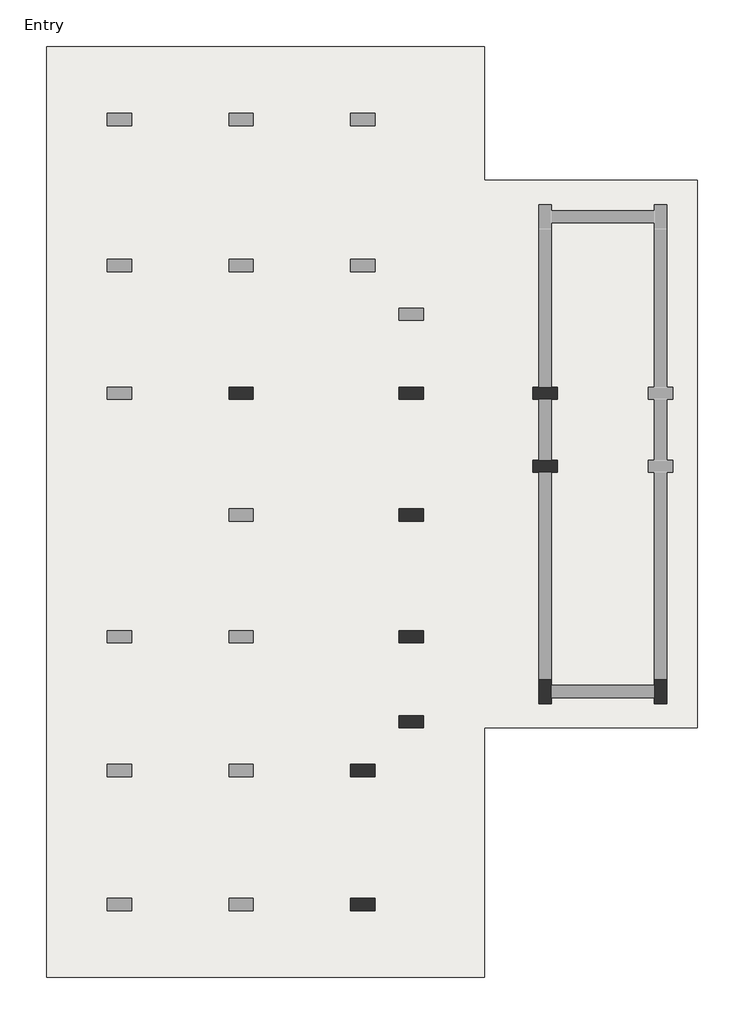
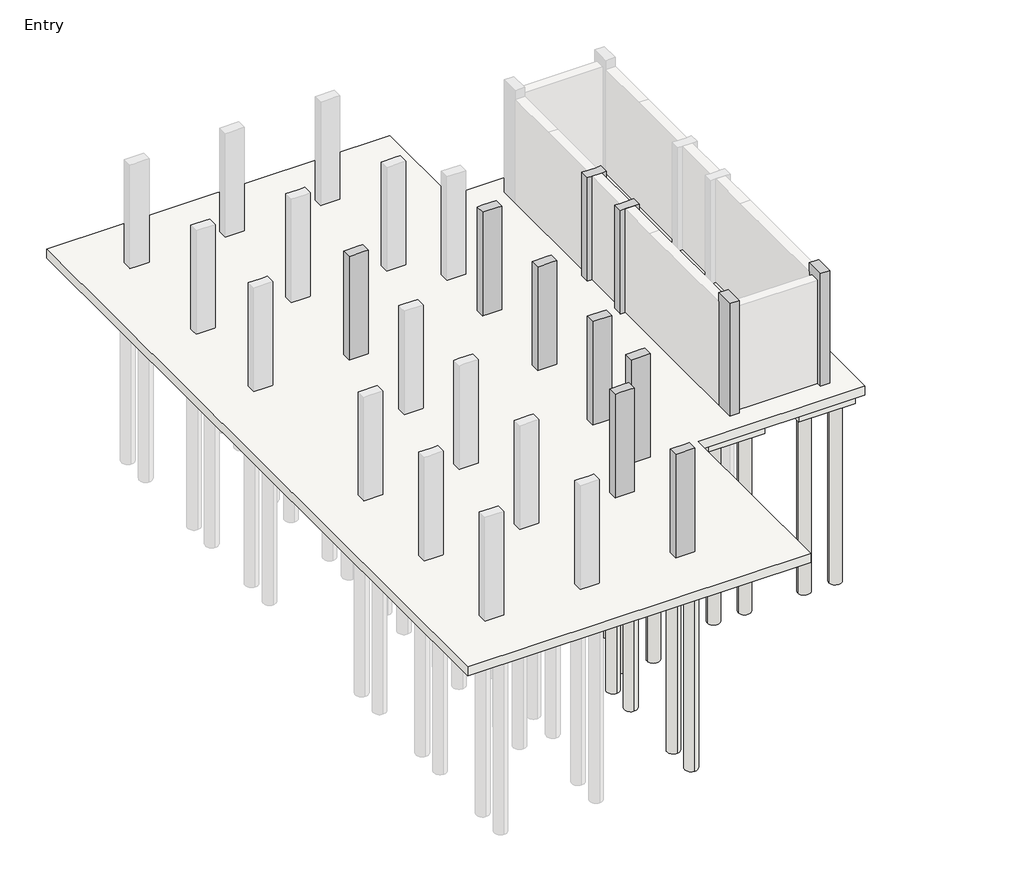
# One storey, part 2 of 3: 34 slabs, 11 columns.
"""IFC4 building model written with IfcOpenShell, lengths in millimetres."""

from ifc_helpers import new_model, si_unit, point, frame, frame_2d, origin, place, context, project, spatial, polyline, circle_curve, trimmed, segment, composite_curve, outline, extrude, faceted_brep, element, save

model = new_model("IFC4")

# Units and contexts
model_context = context("Model", 3, world=origin())
ifc_project = project(units=[si_unit("LENGTHUNIT", "METRE", prefix="MILLI")], contexts=[model_context])

# Site, building, storey
site = spatial("IfcSite", under=ifc_project)
building = spatial("IfcBuilding", under=site)
storey = spatial("IfcBuildingStorey", under=building, Name="Entry", Elevation=0.0)

# Columns
placement = place(None, origin())
element("IfcColumn", 1, ObjectType="Concrete-Rectangular-Column : 12 x 24", at=placement, inside=storey, context=model_context, shape_type="Brep", body=[
    faceted_brep([(-17912.8093661, 15543.5691779, 0.0), (-17303.2093661, 15543.5691779, 0.0), (-17303.2093661, 15238.7691779, 0.0), (-17912.8093661, 15238.7691779, 0.0), (-17912.8093661, 15543.5691779, 3505.2), (-17760.4093661, 15543.5691779, 3505.2), (-17455.6093661, 15543.5691779, 3505.2), (-17303.2093661, 15543.5691779, 3505.2), (-17303.2093661, 15543.5691779, 2895.6), (-17912.8093661, 15543.5691779, 2895.6), (-17303.2093661, 15238.7691779, 3505.2), (-17303.2093661, 15238.7691779, 2895.6), (-17455.6093661, 15238.7691779, 3505.2), (-17760.4093661, 15238.7691779, 3505.2), (-17912.8093661, 15238.7691779, 3505.2), (-17912.8093661, 15238.7691779, 2895.6)], [[[0, 1, 2, 3]], [[4, 5, 6, 7, 8, 1, 0, 9]], [[7, 10, 11, 2, 1, 8]], [[10, 12, 13, 14, 15, 3, 2, 11]], [[14, 4, 9, 0, 3, 15]], [[4, 14, 13, 12, 10, 7, 6, 5]]]),
])
element("IfcColumn", 2, ObjectType="Concrete-Rectangular-Column : 12 x 24", at=placement, inside=storey, context=model_context, shape_type="Brep", body=[
    faceted_brep([(-13645.6093661, 15543.5691779, 0.0), (-13036.0093661, 15543.5691779, 0.0), (-13036.0093661, 15238.7691779, 0.0), (-13645.6093661, 15238.7691779, 0.0), (-13645.6093661, 15543.5691779, 3505.2), (-13493.2093661, 15543.5691779, 3505.2), (-13188.4093661, 15543.5691779, 3505.2), (-13036.0093661, 15543.5691779, 3505.2), (-13036.0093661, 15543.5691779, 2895.6), (-13645.6093661, 15543.5691779, 2895.6), (-13036.0093661, 15238.7691779, 3505.2), (-13036.0093661, 15238.7691779, 2895.6), (-13188.4093661, 15238.7691779, 3505.2), (-13493.2093661, 15238.7691779, 3505.2), (-13645.6093661, 15238.7691779, 3505.2), (-13645.6093661, 15238.7691779, 2895.6)], [[[0, 1, 2, 3]], [[4, 5, 6, 7, 8, 1, 0, 9]], [[7, 10, 11, 2, 1, 8]], [[10, 12, 13, 14, 15, 3, 2, 11]], [[14, 4, 9, 0, 3, 15]], [[4, 14, 13, 12, 10, 7, 6, 5]]]),
])
element("IfcColumn", 3, ObjectType="Concrete-Rectangular-Column : 12 x 24", at=placement, inside=storey, context=model_context, shape_type="Brep", body=[
    faceted_brep([(-10292.8093661, 15543.5691779, 0.0), (-10140.4093661, 15543.5691779, 0.0), (-9835.6093661, 15543.5691779, 0.0), (-9683.2093661, 15543.5691779, 0.0), (-9683.2093661, 15238.7691779, 0.0), (-9835.6093661, 15238.7691779, 0.0), (-10140.4093661, 15238.7691779, 0.0), (-10292.8093661, 15238.7691779, 0.0), (-10292.8093661, 15543.5691779, 3505.2), (-10140.4093661, 15543.5691779, 3505.2), (-9835.6093661, 15543.5691779, 3505.2), (-9683.2093661, 15543.5691779, 3505.2), (-9683.2093661, 15238.7691779, 3505.2), (-9835.6093661, 15238.7691779, 3505.2), (-10140.4093661, 15238.7691779, 3505.2), (-10292.8093661, 15238.7691779, 3505.2)], [[[0, 1, 2, 3, 4, 5, 6, 7]], [[3, 2, 1, 0, 8, 9, 10, 11]], [[4, 3, 11, 12]], [[7, 6, 5, 4, 12, 13, 14, 15]], [[0, 7, 15, 8]], [[11, 10, 9, 8, 15, 14, 13, 12]]]),
])
element("IfcColumn", 4, ObjectType="Concrete-Rectangular-Column : 12 x 24", at=placement, inside=storey, context=model_context, shape_type="Brep", body=[
    faceted_brep([(-10292.8093661, 13714.7691779, 0.0), (-10140.4093661, 13714.7691779, 0.0), (-9835.6093661, 13714.7691779, 0.0), (-9683.2093661, 13714.7691779, 0.0), (-9683.2093661, 13409.9691779, 0.0), (-9835.6093661, 13409.9691779, 0.0), (-10140.4093661, 13409.9691779, 0.0), (-10292.8093661, 13409.9691779, 0.0), (-10292.8093661, 13714.7691779, 3505.2), (-10140.4093661, 13714.7691779, 3505.2), (-9835.6093661, 13714.7691779, 3505.2), (-9683.2093661, 13714.7691779, 3505.2), (-9683.2093661, 13409.9691779, 3505.2), (-9835.6093661, 13409.9691779, 3505.2), (-10140.4093661, 13409.9691779, 3505.2), (-10292.8093661, 13409.9691779, 3505.2)], [[[0, 1, 2, 3, 4, 5, 6, 7]], [[3, 2, 1, 0, 8, 9, 10, 11]], [[4, 3, 11, 12]], [[7, 6, 5, 4, 12, 13, 14, 15]], [[0, 7, 15, 8]], [[11, 10, 9, 8, 15, 14, 13, 12]]]),
])
element("IfcColumn", 5, ObjectType="Concrete-Rectangular-Column : 12 x 24", at=placement, inside=storey, context=model_context, shape_type="Brep", body=[
    faceted_brep([(-13645.6093661, 12495.5691779, 0.0), (-13036.0093661, 12495.5691779, 0.0), (-13036.0093661, 12190.7691779, 0.0), (-13645.6093661, 12190.7691779, 0.0), (-13645.6093661, 12495.5691779, 3505.2), (-13493.2093661, 12495.5691779, 3505.2), (-13188.4093661, 12495.5691779, 3505.2), (-13036.0093661, 12495.5691779, 3505.2), (-13645.6093661, 12495.5691779, 2895.6), (-13036.0093661, 12190.7691779, 3505.2), (-13188.4093661, 12190.7691779, 3505.2), (-13493.2093661, 12190.7691779, 3505.2), (-13645.6093661, 12190.7691779, 3505.2), (-13645.6093661, 12190.7691779, 2895.6)], [[[0, 1, 2, 3]], [[4, 5, 6, 7, 1, 0, 8]], [[7, 9, 2, 1]], [[9, 10, 11, 12, 13, 3, 2]], [[12, 4, 8, 0, 3, 13]], [[4, 12, 11, 10, 9, 7, 6, 5]]]),
])
element("IfcColumn", 6, ObjectType="Concrete-Rectangular-Column : 12 x 24", at=placement, inside=storey, context=model_context, shape_type="Brep", body=[
    faceted_brep([(-13645.6093661, 9447.5691779, 0.0), (-13036.0093661, 9447.5691779, 0.0), (-13036.0093661, 9142.7691779, 0.0), (-13645.6093661, 9142.7691779, 0.0), (-13645.6093661, 9447.5691779, 3505.2), (-13493.2093661, 9447.5691779, 3505.2), (-13188.4093661, 9447.5691779, 3505.2), (-13036.0093661, 9447.5691779, 3505.2), (-13645.6093661, 9447.5691779, 2895.6), (-13036.0093661, 9142.7691779, 3505.2), (-13188.4093661, 9142.7691779, 3505.2), (-13493.2093661, 9142.7691779, 3505.2), (-13645.6093661, 9142.7691779, 3505.2), (-13645.6093661, 9142.7691779, 2895.6)], [[[0, 1, 2, 3]], [[4, 5, 6, 7, 1, 0, 8]], [[7, 9, 2, 1]], [[9, 10, 11, 12, 13, 3, 2]], [[12, 4, 8, 0, 3, 13]], [[4, 12, 11, 10, 9, 7, 6, 5]]]),
])
element("IfcColumn", 7, ObjectType="Concrete-Rectangular-Column : 12 x 24", at=placement, inside=storey, context=model_context, shape_type="Brep", body=[
    faceted_brep([(-14864.8093661, 2741.9691779, 0.0), (-14255.2093661, 2741.9691779, 0.0), (-14255.2093661, 2437.1691779, 0.0), (-14864.8093661, 2437.1691779, 0.0), (-14864.8093661, 2741.9691779, 3505.2), (-14712.4093661, 2741.9691779, 3505.2), (-14407.6093661, 2741.9691779, 3505.2), (-14255.2093661, 2741.9691779, 3505.2), (-14864.8093661, 2741.9691779, 2895.6), (-14255.2093661, 2437.1691779, 3505.2), (-14864.8093661, 2437.1691779, 3505.2), (-14864.8093661, 2437.1691779, 2895.6)], [[[0, 1, 2, 3]], [[4, 5, 6, 7, 1, 0, 8]], [[7, 9, 2, 1]], [[9, 10, 11, 3, 2]], [[10, 4, 8, 0, 3, 11]], [[4, 10, 9, 7, 6, 5]]]),
])
element("IfcColumn", 8, ObjectType="Concrete-Rectangular-Column : 12 x 24", at=placement, inside=storey, context=model_context, shape_type="Brep", body=[
    faceted_brep([(-14864.8093661, 6094.7691779, 0.0), (-14255.2093661, 6094.7691779, 0.0), (-14255.2093661, 5789.9691779, 0.0), (-14864.8093661, 5789.9691779, 0.0), (-14864.8093661, 6094.7691779, 3505.2), (-14712.4093661, 6094.7691779, 3505.2), (-14407.6093661, 6094.7691779, 3505.2), (-14255.2093661, 6094.7691779, 3505.2), (-14864.8093661, 6094.7691779, 2895.6), (-14255.2093661, 5789.9691779, 3505.2), (-14407.6093661, 5789.9691779, 3505.2), (-14712.4093661, 5789.9691779, 3505.2), (-14864.8093661, 5789.9691779, 3505.2), (-14864.8093661, 5789.9691779, 2895.6)], [[[0, 1, 2, 3]], [[4, 5, 6, 7, 1, 0, 8]], [[7, 9, 2, 1]], [[9, 10, 11, 12, 13, 3, 2]], [[12, 4, 8, 0, 3, 13]], [[4, 12, 11, 10, 9, 7, 6, 5]]]),
])
element("IfcColumn", 9, ObjectType="Concrete-Rectangular-Column : 12 x 24", at=placement, inside=storey, context=model_context, shape_type="Brep", body=[
    faceted_brep([(-13645.6093661, 7313.9691779, 0.0), (-13036.0093661, 7313.9691779, 0.0), (-13036.0093661, 7009.1691779, 0.0), (-13645.6093661, 7009.1691779, 0.0), (-13645.6093661, 7313.9691779, 3505.2), (-13493.2093661, 7313.9691779, 3505.2), (-13188.4093661, 7313.9691779, 3505.2), (-13036.0093661, 7313.9691779, 3505.2), (-13645.6093661, 7313.9691779, 2895.6), (-13036.0093661, 7009.1691779, 3505.2), (-13645.6093661, 7009.1691779, 3505.2), (-13645.6093661, 7009.1691779, 2895.6)], [[[0, 1, 2, 3]], [[4, 5, 6, 7, 1, 0, 8]], [[7, 9, 2, 1]], [[9, 10, 11, 3, 2]], [[10, 4, 8, 0, 3, 11]], [[4, 10, 9, 7, 6, 5]]]),
])
element("IfcColumn", 10, ObjectType="Concrete-Rectangular-Column : 12 x 24", at=placement, inside=storey, context=model_context, shape_type="Brep", body=[
    faceted_brep([(-10140.4093661, 7618.7691779, 0.0), (-10140.4093661, 8228.3691779, 0.0), (-9835.6093661, 8228.3691779, 0.0), (-9835.6093661, 8075.9691779, 0.0), (-9835.6093661, 7771.1691779, 0.0), (-9835.6093661, 7618.7691779, 0.0), (-10140.4093661, 7618.7691779, 3810.0), (-10140.4093661, 8228.3691779, 3810.0), (-10140.4093661, 8228.3691779, 3505.2), (-9835.6093661, 8228.3691779, 3810.0), (-9835.6093661, 8228.3691779, 3505.2), (-9835.6093661, 7618.7691779, 3810.0)], [[[0, 1, 2, 3, 4, 5]], [[6, 7, 8, 1, 0]], [[7, 9, 10, 2, 1, 8]], [[9, 11, 5, 4, 3, 2, 10]], [[11, 6, 0, 5]], [[6, 11, 9, 7]]]),
])
element("IfcColumn", 11, ObjectType="Concrete-Rectangular-Column : 12 x 24", at=placement, inside=storey, context=model_context, shape_type="Brep", body=[
    faceted_brep([(-7244.8093661, 7618.7691779, 0.0), (-7244.8093661, 7771.1691779, 0.0), (-7244.8093661, 8075.9691779, 0.0), (-7244.8093661, 8228.3691779, 0.0), (-6940.0093661, 8228.3691779, 0.0), (-6940.0093661, 7618.7691779, 0.0), (-7244.8093661, 7618.7691779, 3810.0), (-7244.8093661, 8228.3691779, 3810.0), (-7244.8093661, 8228.3691779, 3505.2), (-6940.0093661, 8228.3691779, 3810.0), (-6940.0093661, 8228.3691779, 3505.2), (-6940.0093661, 7618.7691779, 3810.0)], [[[0, 1, 2, 3, 4, 5]], [[6, 7, 8, 3, 2, 1, 0]], [[7, 9, 10, 4, 3, 8]], [[9, 11, 5, 4, 10]], [[11, 6, 0, 5]], [[6, 11, 9, 7]]]),
])

# Slabs
element("IfcSlab", 12, ObjectType="12\" Foundation Slab", at=placement, inside=storey, context=model_context, shape_type="SweptSolid", body=[
    extrude(outline(polyline([(-11512.0093661, 24077.9691779), (-11512.0093661, 20725.1691779), (-6178.0093661, 20725.1691779), (-6178.0093661, 7009.1691779), (-11512.0093661, 7009.1691779), (-11512.0093661, 760.7691779), (-22484.8093661, 760.7691779), (-22484.8093661, 24077.9691779), (-11512.0093661, 24077.9691779)])), frame((0.0, 0.0, -304.8), z_axis=(0.0, 0.0, 1.0), x_axis=(1.0, 0.0, 0.0)), (0.0, 0.0, 1.0), 304.8),
])
element("IfcSlab", 13, ObjectType="Pile Cap-2 Pile : 31\"x61\"x35\"", at=placement, inside=storey, context=model_context, shape_type="SweptSolid", body=[
    extrude(outline(polyline([(-14966.4093661, 3491.2691779), (-14153.6093661, 3491.2691779), (-14153.6093661, 1687.8691779), (-14966.4093661, 1687.8691779), (-14966.4093661, 3491.2691779)])), frame((0.0, 0.0, -889.0), z_axis=(0.0, 0.0, 1.0), x_axis=(1.0, 0.0, 0.0)), (0.0, 0.0, 1.0), 584.2),
])
element("IfcSlab", 14, ObjectType="Pile Cap-2 Pile : 31\"x61\"x35\"", at=placement, inside=storey, context=model_context, shape_type="Brep", body=[
    faceted_brep([(-14966.4093661, 6844.0691779, -889.0), (-14242.5093661, 6844.0691779, -889.0), (-14153.6093661, 6844.0691779, -889.0), (-14153.6093661, 6755.1691779, -889.0), (-14153.6093661, 5040.6691779, -889.0), (-14966.4093661, 5040.6691779, -889.0), (-14966.4093661, 5040.6691779, -304.8), (-14966.4093661, 6844.0691779, -304.8), (-14153.6093661, 5040.6691779, -304.8), (-14153.6093661, 6844.0691779, -304.8), (-14153.6093661, 6755.1691779, -304.8), (-14242.5093661, 6844.0691779, -304.8)], [[[0, 1, 2, 3, 4, 5]], [[0, 5, 6, 7]], [[5, 4, 8, 6]], [[4, 3, 2, 9, 10, 8]], [[2, 1, 0, 7, 11, 9]], [[7, 6, 8, 10, 9, 11]]]),
])
element("IfcSlab", 15, ObjectType="Pile Cap-2 Pile : 31\"x61\"x35\"", at=placement, inside=storey, context=model_context, shape_type="SweptSolid", body=[
    extrude(outline(polyline([(-13747.2093661, 10196.8691779), (-12934.4093661, 10196.8691779), (-12934.4093661, 8393.4691779), (-13747.2093661, 8393.4691779), (-13747.2093661, 10196.8691779)])), frame((0.0, 0.0, -889.0), z_axis=(0.0, 0.0, 1.0), x_axis=(1.0, 0.0, 0.0)), (0.0, 0.0, 1.0), 584.2),
])
element("IfcSlab", 16, ObjectType="Pile Cap-2 Pile : 31\"x61\"x35\"", at=placement, inside=storey, context=model_context, shape_type="SweptSolid", body=[
    extrude(outline(polyline([(-13747.2093661, 13244.8691779), (-12934.4093661, 13244.8691779), (-12934.4093661, 11441.4691779), (-13747.2093661, 11441.4691779), (-13747.2093661, 13244.8691779)])), frame((0.0, 0.0, -889.0), z_axis=(0.0, 0.0, 1.0), x_axis=(1.0, 0.0, 0.0)), (0.0, 0.0, 1.0), 584.2),
])
element("IfcSlab", 17, ObjectType="Pile Cap-2 Pile : 31\"x61\"x35\"", at=placement, inside=storey, context=model_context, shape_type="SweptSolid", body=[
    extrude(outline(polyline([(-13747.2093661, 16292.8691779), (-12934.4093661, 16292.8691779), (-12934.4093661, 14489.4691779), (-13747.2093661, 14489.4691779), (-13747.2093661, 16292.8691779)])), frame((0.0, 0.0, -889.0), z_axis=(0.0, 0.0, 1.0), x_axis=(1.0, 0.0, 0.0)), (0.0, 0.0, 1.0), 584.2),
])
element("IfcSlab", 18, ObjectType="Pile Cap-2 Pile : 31\"x61\"x35\"", at=placement, inside=storey, context=model_context, shape_type="SweptSolid", body=[
    extrude(outline(polyline([(-10889.7093661, 7517.1691779), (-10889.7093661, 8329.9691779), (-9086.3093661, 8329.9691779), (-9086.3093661, 7517.1691779), (-10889.7093661, 7517.1691779)])), frame((0.0, 0.0, -889.0), z_axis=(0.0, 0.0, 1.0), x_axis=(1.0, 0.0, 0.0)), (0.0, 0.0, 1.0), 584.2),
])
element("IfcSlab", 19, ObjectType="Pile Cap-2 Pile : 31\"x61\"x35\"", at=placement, inside=storey, context=model_context, shape_type="SweptSolid", body=[
    extrude(outline(polyline([(-7994.1093661, 7517.1691779), (-7994.1093661, 8329.9691779), (-6190.7093661, 8329.9691779), (-6190.7093661, 7517.1691779), (-7994.1093661, 7517.1691779)])), frame((0.0, 0.0, -889.0), z_axis=(0.0, 0.0, 1.0), x_axis=(1.0, 0.0, 0.0)), (0.0, 0.0, 1.0), 584.2),
])
element("IfcSlab", 20, ObjectType="Pile Cap-2 Pile : 31\"x61\"x35\"", at=placement, inside=storey, context=model_context, shape_type="SweptSolid", body=[
    extrude(outline(polyline([(-10394.4093661, 14464.0691779), (-9581.6093661, 14464.0691779), (-9581.6093661, 12660.6691779), (-10394.4093661, 12660.6691779), (-10394.4093661, 14464.0691779)])), frame((0.0, 0.0, -889.0), z_axis=(0.0, 0.0, 1.0), x_axis=(1.0, 0.0, 0.0)), (0.0, 0.0, 1.0), 584.2),
])
element("IfcSlab", 21, ObjectType="Pile Cap-2 Pile : 31\"x61\"x35\"", at=placement, inside=storey, context=model_context, shape_type="SweptSolid", body=[
    extrude(outline(polyline([(-10394.4093661, 16292.8691779), (-9581.6093661, 16292.8691779), (-9581.6093661, 14489.4691779), (-10394.4093661, 14489.4691779), (-10394.4093661, 16292.8691779)])), frame((0.0, 0.0, -889.0), z_axis=(0.0, 0.0, 1.0), x_axis=(1.0, 0.0, 0.0)), (0.0, 0.0, 1.0), 584.2),
])
element("IfcSlab", 22, ObjectType="Pile Cap-2 Pile : 31\"x61\"x35\"", at=placement, inside=storey, context=model_context, shape_type="SweptSolid", body=[
    extrude(outline(polyline([(-12439.1093661, 7567.9691779), (-12439.1093661, 6755.1691779), (-14153.6093661, 6755.1691779), (-14153.6093661, 6844.0691779), (-14242.5093661, 6844.0691779), (-14242.5093661, 7567.9691779), (-12439.1093661, 7567.9691779)])), frame((0.0, 0.0, -889.0), z_axis=(0.0, 0.0, 1.0), x_axis=(1.0, 0.0, 0.0)), (0.0, 0.0, 1.0), 584.2),
])
element("IfcSlab", 23, ObjectType="Pile Cap-4 Pile : 72\"x72\"x35\"", at=placement, inside=storey, context=model_context, shape_type="SweptSolid", body=[
    extrude(outline(polyline([(-18522.4093661, 16305.5691779), (-16693.6093661, 16305.5691779), (-16693.6093661, 14476.7691779), (-18522.4093661, 14476.7691779), (-18522.4093661, 16305.5691779)])), frame((0.0, 0.0, -889.0), z_axis=(0.0, 0.0, 1.0), x_axis=(1.0, 0.0, 0.0)), (0.0, 0.0, 1.0), 584.2),
])
element("IfcSlab", 24, ObjectType="Pile-Steel Pipe : 16\" Diameter", at=placement, inside=storey, context=model_context, shape_type="SweptSolid", body=[
    extrude(outline(composite_curve([segment(trimmed(circle_curve(frame_2d((-17074.6093661, 14857.7691779)), 203.2), [point((-17074.6093661, 14654.5691779))], [point((-17074.6093661, 15060.9691779))], False, "CARTESIAN"), True, "CONTINUOUS"), segment(trimmed(circle_curve(frame_2d((-17074.6093661, 14857.7691779)), 203.2), [point((-17074.6093661, 15060.9691779))], [point((-17074.6093661, 14654.5691779))], False, "CARTESIAN"), True, "CONTINUOUS")], self_intersect=False)), frame((0.0, 0.0, -6985.0), z_axis=(0.0, 0.0, 1.0), x_axis=(1.0, 0.0, 0.0)), (0.0, 0.0, 1.0), 6096.0),
])
element("IfcSlab", 25, ObjectType="Pile-Steel Pipe : 16\" Diameter", at=placement, inside=storey, context=model_context, shape_type="SweptSolid", body=[
    extrude(outline(composite_curve([segment(trimmed(circle_curve(frame_2d((-17074.6093661, 15924.5691779)), 203.2), [point((-17074.6093661, 15721.3691779))], [point((-17074.6093661, 16127.7691779))], False, "CARTESIAN"), True, "CONTINUOUS"), segment(trimmed(circle_curve(frame_2d((-17074.6093661, 15924.5691779)), 203.2), [point((-17074.6093661, 16127.7691779))], [point((-17074.6093661, 15721.3691779))], False, "CARTESIAN"), True, "CONTINUOUS")], self_intersect=False)), frame((0.0, 0.0, -6985.0), z_axis=(0.0, 0.0, 1.0), x_axis=(1.0, 0.0, 0.0)), (0.0, 0.0, 1.0), 6096.0),
])
element("IfcSlab", 26, ObjectType="Pile-Steel Pipe : 16\" Diameter", at=placement, inside=storey, context=model_context, shape_type="SweptSolid", body=[
    extrude(outline(composite_curve([segment(trimmed(circle_curve(frame_2d((-14560.0093661, 3084.8691779)), 203.2), [point((-14560.0093661, 2881.6691779))], [point((-14560.0093661, 3288.0691779))], False, "CARTESIAN"), True, "CONTINUOUS"), segment(trimmed(circle_curve(frame_2d((-14560.0093661, 3084.8691779)), 203.2), [point((-14560.0093661, 3288.0691779))], [point((-14560.0093661, 2881.6691779))], False, "CARTESIAN"), True, "CONTINUOUS")], self_intersect=False)), frame((0.0, 0.0, -6985.0), z_axis=(0.0, 0.0, 1.0), x_axis=(1.0, 0.0, 0.0)), (0.0, 0.0, 1.0), 6096.0),
])
element("IfcSlab", 27, ObjectType="Pile-Steel Pipe : 16\" Diameter", at=placement, inside=storey, context=model_context, shape_type="SweptSolid", body=[
    extrude(outline(composite_curve([segment(trimmed(circle_curve(frame_2d((-14560.0093661, 2094.2691779)), 203.2), [point((-14560.0093661, 1891.0691779))], [point((-14560.0093661, 2297.4691779))], False, "CARTESIAN"), True, "CONTINUOUS"), segment(trimmed(circle_curve(frame_2d((-14560.0093661, 2094.2691779)), 203.2), [point((-14560.0093661, 2297.4691779))], [point((-14560.0093661, 1891.0691779))], False, "CARTESIAN"), True, "CONTINUOUS")], self_intersect=False)), frame((0.0, 0.0, -6985.0), z_axis=(0.0, 0.0, 1.0), x_axis=(1.0, 0.0, 0.0)), (0.0, 0.0, 1.0), 6096.0),
])
element("IfcSlab", 28, ObjectType="Pile-Steel Pipe : 16\" Diameter", at=placement, inside=storey, context=model_context, shape_type="SweptSolid", body=[
    extrude(outline(composite_curve([segment(trimmed(circle_curve(frame_2d((-14560.0093661, 6437.6691779)), 203.2), [point((-14560.0093661, 6234.4691779))], [point((-14560.0093661, 6640.8691779))], False, "CARTESIAN"), True, "CONTINUOUS"), segment(trimmed(circle_curve(frame_2d((-14560.0093661, 6437.6691779)), 203.2), [point((-14560.0093661, 6640.8691779))], [point((-14560.0093661, 6234.4691779))], False, "CARTESIAN"), True, "CONTINUOUS")], self_intersect=False)), frame((0.0, 0.0, -6985.0), z_axis=(0.0, 0.0, 1.0), x_axis=(1.0, 0.0, 0.0)), (0.0, 0.0, 1.0), 6096.0),
])
element("IfcSlab", 29, ObjectType="Pile-Steel Pipe : 16\" Diameter", at=placement, inside=storey, context=model_context, shape_type="SweptSolid", body=[
    extrude(outline(composite_curve([segment(trimmed(circle_curve(frame_2d((-14560.0093661, 5447.0691779)), 203.2), [point((-14560.0093661, 5243.8691779))], [point((-14560.0093661, 5650.2691779))], False, "CARTESIAN"), True, "CONTINUOUS"), segment(trimmed(circle_curve(frame_2d((-14560.0093661, 5447.0691779)), 203.2), [point((-14560.0093661, 5650.2691779))], [point((-14560.0093661, 5243.8691779))], False, "CARTESIAN"), True, "CONTINUOUS")], self_intersect=False)), frame((0.0, 0.0, -6985.0), z_axis=(0.0, 0.0, 1.0), x_axis=(1.0, 0.0, 0.0)), (0.0, 0.0, 1.0), 6096.0),
])
element("IfcSlab", 30, ObjectType="Pile-Steel Pipe : 16\" Diameter", at=placement, inside=storey, context=model_context, shape_type="SweptSolid", body=[
    extrude(outline(composite_curve([segment(trimmed(circle_curve(frame_2d((-13340.8093661, 9790.4691779)), 203.2), [point((-13340.8093661, 9587.2691779))], [point((-13340.8093661, 9993.6691779))], False, "CARTESIAN"), True, "CONTINUOUS"), segment(trimmed(circle_curve(frame_2d((-13340.8093661, 9790.4691779)), 203.2), [point((-13340.8093661, 9993.6691779))], [point((-13340.8093661, 9587.2691779))], False, "CARTESIAN"), True, "CONTINUOUS")], self_intersect=False)), frame((0.0, 0.0, -6985.0), z_axis=(0.0, 0.0, 1.0), x_axis=(1.0, 0.0, 0.0)), (0.0, 0.0, 1.0), 6096.0),
])
element("IfcSlab", 31, ObjectType="Pile-Steel Pipe : 16\" Diameter", at=placement, inside=storey, context=model_context, shape_type="SweptSolid", body=[
    extrude(outline(composite_curve([segment(trimmed(circle_curve(frame_2d((-13340.8093661, 8799.8691779)), 203.2), [point((-13340.8093661, 8596.6691779))], [point((-13340.8093661, 9003.0691779))], False, "CARTESIAN"), True, "CONTINUOUS"), segment(trimmed(circle_curve(frame_2d((-13340.8093661, 8799.8691779)), 203.2), [point((-13340.8093661, 9003.0691779))], [point((-13340.8093661, 8596.6691779))], False, "CARTESIAN"), True, "CONTINUOUS")], self_intersect=False)), frame((0.0, 0.0, -6985.0), z_axis=(0.0, 0.0, 1.0), x_axis=(1.0, 0.0, 0.0)), (0.0, 0.0, 1.0), 6096.0),
])
element("IfcSlab", 32, ObjectType="Pile-Steel Pipe : 16\" Diameter", at=placement, inside=storey, context=model_context, shape_type="SweptSolid", body=[
    extrude(outline(composite_curve([segment(trimmed(circle_curve(frame_2d((-13340.8093661, 12838.4691779)), 203.2), [point((-13340.8093661, 12635.2691779))], [point((-13340.8093661, 13041.6691779))], False, "CARTESIAN"), True, "CONTINUOUS"), segment(trimmed(circle_curve(frame_2d((-13340.8093661, 12838.4691779)), 203.2), [point((-13340.8093661, 13041.6691779))], [point((-13340.8093661, 12635.2691779))], False, "CARTESIAN"), True, "CONTINUOUS")], self_intersect=False)), frame((0.0, 0.0, -6985.0), z_axis=(0.0, 0.0, 1.0), x_axis=(1.0, 0.0, 0.0)), (0.0, 0.0, 1.0), 6096.0),
])
element("IfcSlab", 33, ObjectType="Pile-Steel Pipe : 16\" Diameter", at=placement, inside=storey, context=model_context, shape_type="SweptSolid", body=[
    extrude(outline(composite_curve([segment(trimmed(circle_curve(frame_2d((-13340.8093661, 11847.8691779)), 203.2), [point((-13340.8093661, 11644.6691779))], [point((-13340.8093661, 12051.0691779))], False, "CARTESIAN"), True, "CONTINUOUS"), segment(trimmed(circle_curve(frame_2d((-13340.8093661, 11847.8691779)), 203.2), [point((-13340.8093661, 12051.0691779))], [point((-13340.8093661, 11644.6691779))], False, "CARTESIAN"), True, "CONTINUOUS")], self_intersect=False)), frame((0.0, 0.0, -6985.0), z_axis=(0.0, 0.0, 1.0), x_axis=(1.0, 0.0, 0.0)), (0.0, 0.0, 1.0), 6096.0),
])
element("IfcSlab", 34, ObjectType="Pile-Steel Pipe : 16\" Diameter", at=placement, inside=storey, context=model_context, shape_type="SweptSolid", body=[
    extrude(outline(composite_curve([segment(trimmed(circle_curve(frame_2d((-13340.8093661, 15886.4691779)), 203.2), [point((-13340.8093661, 15683.2691779))], [point((-13340.8093661, 16089.6691779))], False, "CARTESIAN"), True, "CONTINUOUS"), segment(trimmed(circle_curve(frame_2d((-13340.8093661, 15886.4691779)), 203.2), [point((-13340.8093661, 16089.6691779))], [point((-13340.8093661, 15683.2691779))], False, "CARTESIAN"), True, "CONTINUOUS")], self_intersect=False)), frame((0.0, 0.0, -6985.0), z_axis=(0.0, 0.0, 1.0), x_axis=(1.0, 0.0, 0.0)), (0.0, 0.0, 1.0), 6096.0),
])
element("IfcSlab", 35, ObjectType="Pile-Steel Pipe : 16\" Diameter", at=placement, inside=storey, context=model_context, shape_type="SweptSolid", body=[
    extrude(outline(composite_curve([segment(trimmed(circle_curve(frame_2d((-13340.8093661, 14895.8691779)), 203.2), [point((-13340.8093661, 14692.6691779))], [point((-13340.8093661, 15099.0691779))], False, "CARTESIAN"), True, "CONTINUOUS"), segment(trimmed(circle_curve(frame_2d((-13340.8093661, 14895.8691779)), 203.2), [point((-13340.8093661, 15099.0691779))], [point((-13340.8093661, 14692.6691779))], False, "CARTESIAN"), True, "CONTINUOUS")], self_intersect=False)), frame((0.0, 0.0, -6985.0), z_axis=(0.0, 0.0, 1.0), x_axis=(1.0, 0.0, 0.0)), (0.0, 0.0, 1.0), 6096.0),
])
element("IfcSlab", 36, ObjectType="Pile-Steel Pipe : 16\" Diameter", at=placement, inside=storey, context=model_context, shape_type="SweptSolid", body=[
    extrude(outline(composite_curve([segment(trimmed(circle_curve(frame_2d((-10483.3093661, 7923.5691779)), 203.2), [point((-10280.1093661, 7923.5691779))], [point((-10686.5093661, 7923.5691779))], False, "CARTESIAN"), True, "CONTINUOUS"), segment(trimmed(circle_curve(frame_2d((-10483.3093661, 7923.5691779)), 203.2), [point((-10686.5093661, 7923.5691779))], [point((-10280.1093661, 7923.5691779))], False, "CARTESIAN"), True, "CONTINUOUS")], self_intersect=False)), frame((0.0, 0.0, -6985.0), z_axis=(0.0, 0.0, 1.0), x_axis=(1.0, 0.0, 0.0)), (0.0, 0.0, 1.0), 6096.0),
])
element("IfcSlab", 37, ObjectType="Pile-Steel Pipe : 16\" Diameter", at=placement, inside=storey, context=model_context, shape_type="SweptSolid", body=[
    extrude(outline(composite_curve([segment(trimmed(circle_curve(frame_2d((-9492.7093661, 7923.5691779)), 203.2), [point((-9289.5093661, 7923.5691779))], [point((-9695.9093661, 7923.5691779))], False, "CARTESIAN"), True, "CONTINUOUS"), segment(trimmed(circle_curve(frame_2d((-9492.7093661, 7923.5691779)), 203.2), [point((-9695.9093661, 7923.5691779))], [point((-9289.5093661, 7923.5691779))], False, "CARTESIAN"), True, "CONTINUOUS")], self_intersect=False)), frame((0.0, 0.0, -6985.0), z_axis=(0.0, 0.0, 1.0), x_axis=(1.0, 0.0, 0.0)), (0.0, 0.0, 1.0), 6096.0),
])
element("IfcSlab", 38, ObjectType="Pile-Steel Pipe : 16\" Diameter", at=placement, inside=storey, context=model_context, shape_type="SweptSolid", body=[
    extrude(outline(composite_curve([segment(trimmed(circle_curve(frame_2d((-7587.7093661, 7923.5691779)), 203.2), [point((-7384.5093661, 7923.5691779))], [point((-7790.9093661, 7923.5691779))], False, "CARTESIAN"), True, "CONTINUOUS"), segment(trimmed(circle_curve(frame_2d((-7587.7093661, 7923.5691779)), 203.2), [point((-7790.9093661, 7923.5691779))], [point((-7384.5093661, 7923.5691779))], False, "CARTESIAN"), True, "CONTINUOUS")], self_intersect=False)), frame((0.0, 0.0, -6985.0), z_axis=(0.0, 0.0, 1.0), x_axis=(1.0, 0.0, 0.0)), (0.0, 0.0, 1.0), 6096.0),
])
element("IfcSlab", 39, ObjectType="Pile-Steel Pipe : 16\" Diameter", at=placement, inside=storey, context=model_context, shape_type="SweptSolid", body=[
    extrude(outline(composite_curve([segment(trimmed(circle_curve(frame_2d((-6597.1093661, 7923.5691779)), 203.2), [point((-6393.9093661, 7923.5691779))], [point((-6800.3093661, 7923.5691779))], False, "CARTESIAN"), True, "CONTINUOUS"), segment(trimmed(circle_curve(frame_2d((-6597.1093661, 7923.5691779)), 203.2), [point((-6800.3093661, 7923.5691779))], [point((-6393.9093661, 7923.5691779))], False, "CARTESIAN"), True, "CONTINUOUS")], self_intersect=False)), frame((0.0, 0.0, -6985.0), z_axis=(0.0, 0.0, 1.0), x_axis=(1.0, 0.0, 0.0)), (0.0, 0.0, 1.0), 6096.0),
])
element("IfcSlab", 40, ObjectType="Pile-Steel Pipe : 16\" Diameter", at=placement, inside=storey, context=model_context, shape_type="SweptSolid", body=[
    extrude(outline(composite_curve([segment(trimmed(circle_curve(frame_2d((-9988.0093661, 14057.6691779)), 203.2), [point((-9988.0093661, 13854.4691779))], [point((-9988.0093661, 14260.8691779))], False, "CARTESIAN"), True, "CONTINUOUS"), segment(trimmed(circle_curve(frame_2d((-9988.0093661, 14057.6691779)), 203.2), [point((-9988.0093661, 14260.8691779))], [point((-9988.0093661, 13854.4691779))], False, "CARTESIAN"), True, "CONTINUOUS")], self_intersect=False)), frame((0.0, 0.0, -6985.0), z_axis=(0.0, 0.0, 1.0), x_axis=(1.0, 0.0, 0.0)), (0.0, 0.0, 1.0), 6096.0),
])
element("IfcSlab", 41, ObjectType="Pile-Steel Pipe : 16\" Diameter", at=placement, inside=storey, context=model_context, shape_type="SweptSolid", body=[
    extrude(outline(composite_curve([segment(trimmed(circle_curve(frame_2d((-9988.0093661, 13067.0691779)), 203.2), [point((-9988.0093661, 12863.8691779))], [point((-9988.0093661, 13270.2691779))], False, "CARTESIAN"), True, "CONTINUOUS"), segment(trimmed(circle_curve(frame_2d((-9988.0093661, 13067.0691779)), 203.2), [point((-9988.0093661, 13270.2691779))], [point((-9988.0093661, 12863.8691779))], False, "CARTESIAN"), True, "CONTINUOUS")], self_intersect=False)), frame((0.0, 0.0, -6985.0), z_axis=(0.0, 0.0, 1.0), x_axis=(1.0, 0.0, 0.0)), (0.0, 0.0, 1.0), 6096.0),
])
element("IfcSlab", 42, ObjectType="Pile-Steel Pipe : 16\" Diameter", at=placement, inside=storey, context=model_context, shape_type="SweptSolid", body=[
    extrude(outline(composite_curve([segment(trimmed(circle_curve(frame_2d((-9988.0093661, 15886.4691779)), 203.2), [point((-9988.0093661, 15683.2691779))], [point((-9988.0093661, 16089.6691779))], False, "CARTESIAN"), True, "CONTINUOUS"), segment(trimmed(circle_curve(frame_2d((-9988.0093661, 15886.4691779)), 203.2), [point((-9988.0093661, 16089.6691779))], [point((-9988.0093661, 15683.2691779))], False, "CARTESIAN"), True, "CONTINUOUS")], self_intersect=False)), frame((0.0, 0.0, -6985.0), z_axis=(0.0, 0.0, 1.0), x_axis=(1.0, 0.0, 0.0)), (0.0, 0.0, 1.0), 6096.0),
])
element("IfcSlab", 43, ObjectType="Pile-Steel Pipe : 16\" Diameter", at=placement, inside=storey, context=model_context, shape_type="SweptSolid", body=[
    extrude(outline(composite_curve([segment(trimmed(circle_curve(frame_2d((-9988.0093661, 14895.8691779)), 203.2), [point((-9988.0093661, 14692.6691779))], [point((-9988.0093661, 15099.0691779))], False, "CARTESIAN"), True, "CONTINUOUS"), segment(trimmed(circle_curve(frame_2d((-9988.0093661, 14895.8691779)), 203.2), [point((-9988.0093661, 15099.0691779))], [point((-9988.0093661, 14692.6691779))], False, "CARTESIAN"), True, "CONTINUOUS")], self_intersect=False)), frame((0.0, 0.0, -6985.0), z_axis=(0.0, 0.0, 1.0), x_axis=(1.0, 0.0, 0.0)), (0.0, 0.0, 1.0), 6096.0),
])
element("IfcSlab", 44, ObjectType="Pile-Steel Pipe : 16\" Diameter", at=placement, inside=storey, context=model_context, shape_type="SweptSolid", body=[
    extrude(outline(composite_curve([segment(trimmed(circle_curve(frame_2d((-12845.5093661, 7161.5691779)), 203.2), [point((-13048.7093661, 7161.5691779))], [point((-12642.3093661, 7161.5691779))], False, "CARTESIAN"), True, "CONTINUOUS"), segment(trimmed(circle_curve(frame_2d((-12845.5093661, 7161.5691779)), 203.2), [point((-12642.3093661, 7161.5691779))], [point((-13048.7093661, 7161.5691779))], False, "CARTESIAN"), True, "CONTINUOUS")], self_intersect=False)), frame((0.0, 0.0, -6985.0), z_axis=(0.0, 0.0, 1.0), x_axis=(1.0, 0.0, 0.0)), (0.0, 0.0, 1.0), 6096.0),
])
element("IfcSlab", 45, ObjectType="Pile-Steel Pipe : 16\" Diameter", at=placement, inside=storey, context=model_context, shape_type="SweptSolid", body=[
    extrude(outline(composite_curve([segment(trimmed(circle_curve(frame_2d((-13836.1093661, 7161.5691779)), 203.2), [point((-14039.3093661, 7161.5691779))], [point((-13632.9093661, 7161.5691779))], False, "CARTESIAN"), True, "CONTINUOUS"), segment(trimmed(circle_curve(frame_2d((-13836.1093661, 7161.5691779)), 203.2), [point((-13632.9093661, 7161.5691779))], [point((-14039.3093661, 7161.5691779))], False, "CARTESIAN"), True, "CONTINUOUS")], self_intersect=False)), frame((0.0, 0.0, -6985.0), z_axis=(0.0, 0.0, 1.0), x_axis=(1.0, 0.0, 0.0)), (0.0, 0.0, 1.0), 6096.0),
])

save(model, "model.ifc")
